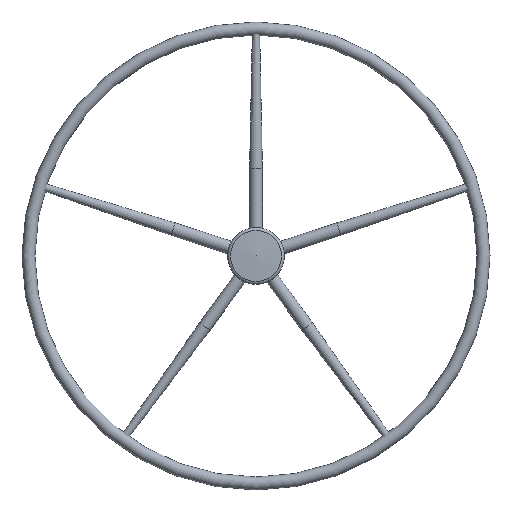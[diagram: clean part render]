
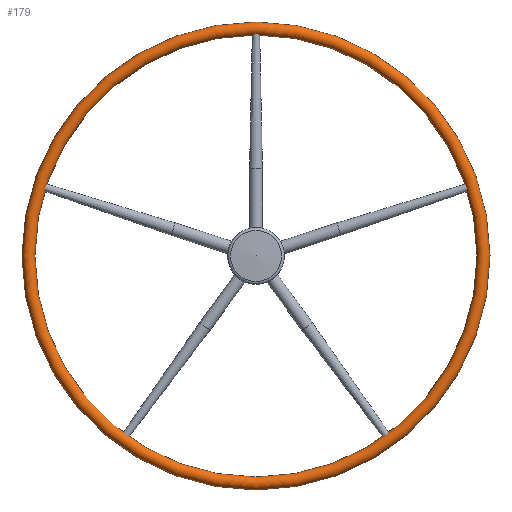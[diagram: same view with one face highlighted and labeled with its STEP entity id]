
A CAD part, top view. The second image highlights one B-rep face of the part: STEP entity #179.
In plain terms, the highlighted toroidal (fillet/blend) face has major radius 437.5 mm and minor radius 12.5 mm.
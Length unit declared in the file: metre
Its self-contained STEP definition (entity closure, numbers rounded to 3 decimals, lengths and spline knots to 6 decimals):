
#179=ADVANCED_FACE('',(),#371,.T.);
#371=TOROIDAL_SURFACE('',#629,0.4375,0.0125);
#629=AXIS2_PLACEMENT_3D('',#891,#892,#893);
#891=CARTESIAN_POINT('',(3.0,2.0625,0.0));
#892=DIRECTION('',(0.0,0.0,-1.0));
#893=DIRECTION('',(-1.0,0.0,0.0));
